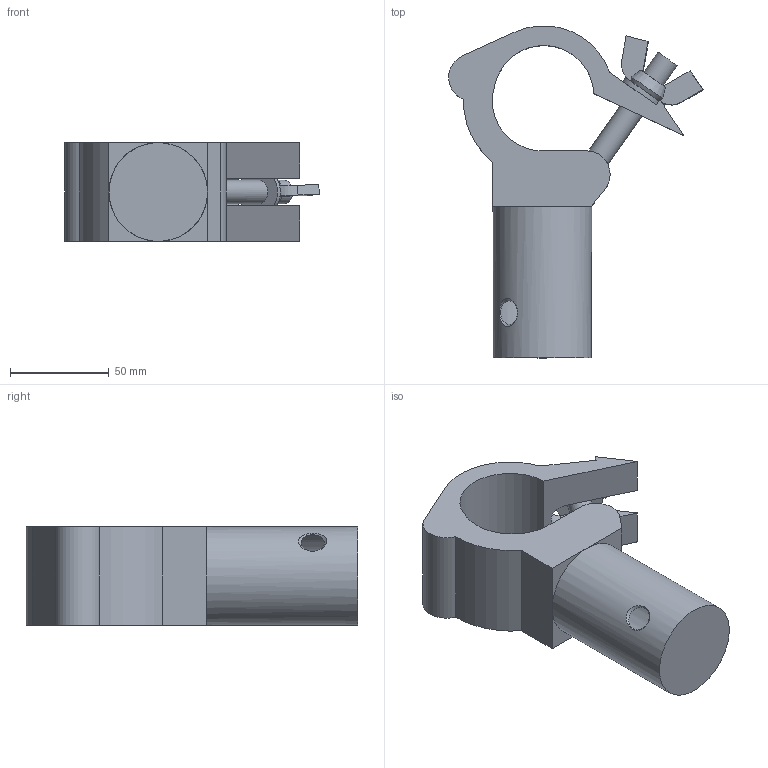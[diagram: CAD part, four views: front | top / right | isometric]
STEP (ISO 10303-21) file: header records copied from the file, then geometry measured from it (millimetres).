
FILE_DESCRIPTION(/* description */ (''),/* implementation_level */ '2;1');
FILE_NAME(/* name */ 'K:\Techniek\CAD Tekeningen\Inventor transport\Cas\Cad Blokken\Catalogus\CS1-DCxx\CS1-DC10.5.stp',/* time_stamp */ '2021-06-22T09:46:10+02:00',/* author */ ('Cas'),/* organization */ (''),/* preprocessor_version */ 'ST-DEVELOPER v18',/* originating_system */ 'Autodesk Inventor 2020',/* authorisation */ '');
FILE_SCHEMA (('AUTOMOTIVE_DESIGN { 1 0 10303 214 3 1 1 }'));
Length unit declared in the file: millimetre
Products named in the file (1): CS1-DC10.5
Bounding box: 129.13 x 168.33 x 50 mm (x, y, z)
Volume: 337861 mm3; surface area: 50192.6 mm2
Topology: 1 solids, 1 shells, 58 faces, 159 edges, 102 vertices
Faces by surface type: plane 37, cylinder 15, cone 6
Full cylindrical faces by diameter (mm): 12 x2, 50 x1
Entity records: 2095 total; most frequent: CARTESIAN_POINT 452, ORIENTED_EDGE 326, DIRECTION 307, EDGE_CURVE 163, AXIS2_PLACEMENT_3D 103, VERTEX_POINT 102, LINE 101, VECTOR 101
